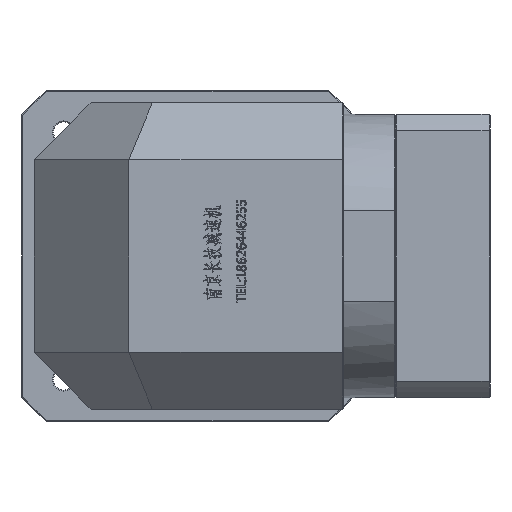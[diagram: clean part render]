
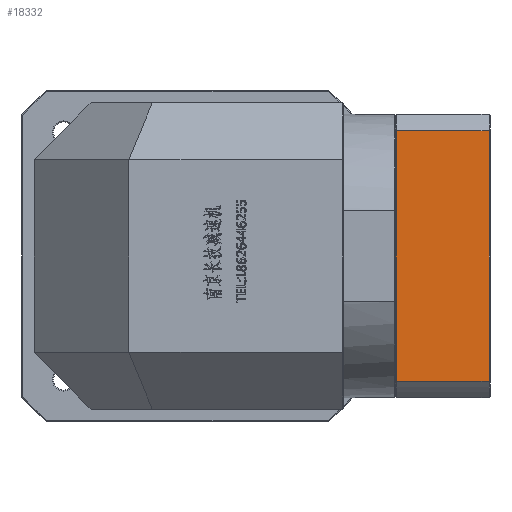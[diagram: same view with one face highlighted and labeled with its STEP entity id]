
A CAD part, left-side view. The second image highlights one B-rep face of the part: STEP entity #18332.
In plain terms, the highlighted planar face has unit normal (-1, 0, 0).
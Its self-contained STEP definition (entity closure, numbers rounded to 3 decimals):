
#6640 = LINE ( 'NONE', #27264, #122121 ) ;
#13993 = DIRECTION ( 'NONE',  ( 1., 0., 0. ) ) ;
#16528 = ORIENTED_EDGE ( 'NONE', *, *, #39668, .F. ) ;
#16970 = VERTEX_POINT ( 'NONE', #88581 ) ;
#18332 = ADVANCED_FACE ( 'NONE', ( #83494 ), #60794, .F. ) ;
#19361 = ORIENTED_EDGE ( 'NONE', *, *, #125248, .F. ) ;
#24685 = VECTOR ( 'NONE', #57768, 1000. ) ;
#27264 = CARTESIAN_POINT ( 'NONE',  ( -73.405, -215.882, 318.626 ) ) ;
#37678 = EDGE_LOOP ( 'NONE', ( #103955, #124259, #16528, #19361 ) ) ;
#39354 = LINE ( 'NONE', #87096, #67240 ) ;
#39668 = EDGE_CURVE ( 'NONE', #16970, #83177, #56236, .T. ) ;
#41929 = CARTESIAN_POINT ( 'NONE',  ( -73.405, -215.382, 318.626 ) ) ;
#47254 = AXIS2_PLACEMENT_3D ( 'NONE', #84738, #13993, #97265 ) ;
#53928 = VECTOR ( 'NONE', #147060, 1000. ) ;
#56236 = LINE ( 'NONE', #91147, #24685 ) ;
#57153 = EDGE_CURVE ( 'NONE', #63185, #83177, #81840, .T. ) ;
#57286 = CARTESIAN_POINT ( 'NONE',  ( -73.405, -166.382, 318.626 ) ) ;
#57768 = DIRECTION ( 'NONE',  ( 0., 1., 0. ) ) ;
#60794 = PLANE ( 'NONE',  #47254 ) ;
#63185 = VERTEX_POINT ( 'NONE', #57286 ) ;
#67240 = VECTOR ( 'NONE', #124148, 1000. ) ;
#81840 = LINE ( 'NONE', #111118, #53928 ) ;
#83177 = VERTEX_POINT ( 'NONE', #99533 ) ;
#83494 = FACE_OUTER_BOUND ( 'NONE', #37678, .T. ) ;
#84738 = CARTESIAN_POINT ( 'NONE',  ( -73.405, -215.882, 177.482 ) ) ;
#87096 = CARTESIAN_POINT ( 'NONE',  ( -73.405, -215.382, 177.482 ) ) ;
#88581 = CARTESIAN_POINT ( 'NONE',  ( -73.405, -215.382, 186.338 ) ) ;
#91147 = CARTESIAN_POINT ( 'NONE',  ( -73.405, 119.789, 186.338 ) ) ;
#97265 = DIRECTION ( 'NONE',  ( 0., 1., 0. ) ) ;
#99533 = CARTESIAN_POINT ( 'NONE',  ( -73.405, -166.382, 186.338 ) ) ;
#103955 = ORIENTED_EDGE ( 'NONE', *, *, #133637, .F. ) ;
#111118 = CARTESIAN_POINT ( 'NONE',  ( -73.405, -166.382, 177.482 ) ) ;
#111600 = DIRECTION ( 'NONE',  ( 0., -1., 0. ) ) ;
#122121 = VECTOR ( 'NONE', #111600, 1000. ) ;
#124148 = DIRECTION ( 'NONE',  ( 0., 0., -1. ) ) ;
#124259 = ORIENTED_EDGE ( 'NONE', *, *, #57153, .T. ) ;
#125248 = EDGE_CURVE ( 'NONE', #153151, #16970, #39354, .T. ) ;
#133637 = EDGE_CURVE ( 'NONE', #63185, #153151, #6640, .T. ) ;
#147060 = DIRECTION ( 'NONE',  ( 0., 0., -1. ) ) ;
#153151 = VERTEX_POINT ( 'NONE', #41929 ) ;
